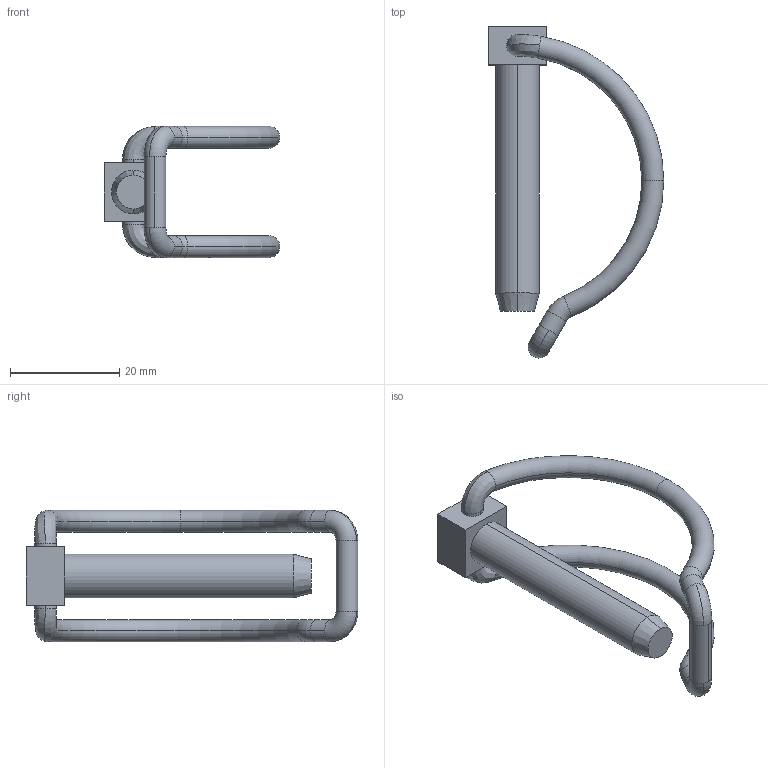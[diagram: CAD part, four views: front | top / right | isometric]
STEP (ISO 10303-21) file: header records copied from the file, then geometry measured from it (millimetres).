
FILE_DESCRIPTION (( 'STEP AP203' ), '1' );
FILE_NAME ('Default.step', '2025-02-04T13:39:43', ( '' ), ( '' ), 'SwSTEP 2.0', 'SolidWorks 2019', '' );
FILE_SCHEMA (( 'CONFIG_CONTROL_DESIGN' ));
Length unit declared in the file: millimetre
Products named in the file (3): Part5; part1; Default
Assembly tree (2 placements, depth 2):
  Default
    part1
    Part5
Bounding box: 32.07 x 60.66 x 24 mm (x, y, z)
Volume: 5221.9 mm3; surface area: 4088.7 mm2
Topology: 2 solids, 2 shells, 43 faces, 100 edges, 62 vertices
Faces by surface type: cylinder 14, torus 14, plane 9, bspline 4, cone 2
Entity records: 1847 total; most frequent: CARTESIAN_POINT 522, DIRECTION 252, ORIENTED_EDGE 200, AXIS2_PLACEMENT_3D 112, EDGE_CURVE 100, CIRCLE 68, VERTEX_POINT 62, EDGE_LOOP 46
